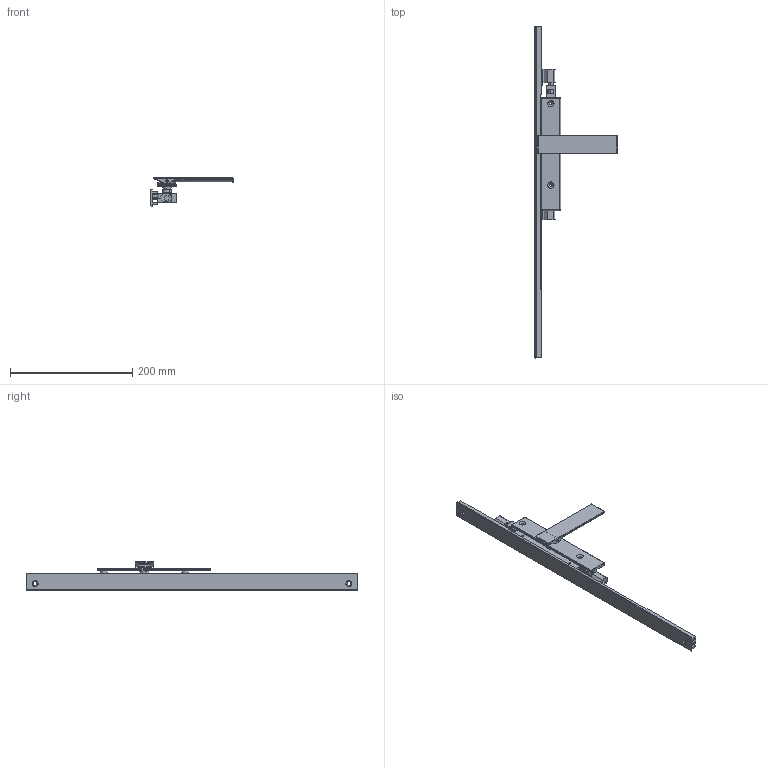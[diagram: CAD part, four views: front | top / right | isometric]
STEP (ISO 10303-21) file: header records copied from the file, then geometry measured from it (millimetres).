
FILE_DESCRIPTION (( 'STEP AP214' ), '1' );
FILE_NAME ('TPL-W-502-U 19July2024.STEP', '2024-12-04T23:54:51', ( '' ), ( '' ), 'SwSTEP 2.0', 'SolidWorks 2023', '' );
FILE_SCHEMA (( 'AUTOMOTIVE_DESIGN' ));
Length unit declared in the file: millimetre
Products named in the file (16): TPL-W-502-U 19July2024; Copy of Escutcheon plate unkeyed 185mm - simplified^Copy of TPGen2 handle non-keyed - simplified_TPL-W-002 19July2024; Copy (2) of COV-112-B Cover B suit TPLGen2 standard range^TPL-W-002 19July2024_2870mm; Copy of Adapter CnE - simplfied^TPL-W-002 19July2024_26mm backset; Copy of COV-112-A Cover A suit TPLGen2 standard range^TPL-W-002 19July2024_1335mm; Copy of TPGen2 handle non-keyed - simplified^TPL-W-002 19July2024_Right; Copy of Copy of Copy of LKC-531 Lock twinpoint transmission rod wood system^TPL-W-002 19July2024_Standard Range 2891.7mm; Bolt(2)^TPL-W-002 19July2024; Copy of TPLGen2 lock body non-keyed^Copy of TPLGen2 lock body non-keyed assembly_TPL-W-002 19July2024; Copy of TPLGen2 lock body non-keyed assembly^TPL-W-002 19July2024_Bolts retracted; Copy of COV-112-C Cover C TPLGen2 Lock body^TPL-W-002 19July2024; Copy of LKC-547 Spindle - simplified^Copy of TPGen2 handle non-keyed - simplified_TPL-W-002 19July2024_C - 15mm; Copy of Copy of LKC-531 Lock twinpoint transmission rod wood system^TPL-W-002 19July2024_Standard Range 2891.7mm; Copy of Handle sub-assembly - simplified^Copy of TPGen2 handle non-keyed - simplified_TPL-W-002 19July2024; Copy of Adapter DnF - simplfied^TPL-W-002 19July2024_26mm backset; Copy of TPLGen2 push rod - simplified^Copy of TPLGen2 lock body non-keyed assembly_TPL-W-002 19July2024_Female thread M10
Assembly tree (13 placements, depth 3):
  TPL-W-502-U 19July2024
    Copy of TPLGen2 lock body non-keyed assembly^TPL-W-002 19July2024_Bolts retracted
      Copy of TPLGen2 lock body non-keyed^Copy of TPLGen2 lock body non-keyed assembly_TPL-W-002 19July2024
      Copy of TPLGen2 push rod - simplified^Copy of TPLGen2 lock body non-keyed assembly_TPL-W-002 19July2024_Female thread M10  x2
    Copy of TPGen2 handle non-keyed - simplified^TPL-W-002 19July2024_Right
      Copy of Escutcheon plate unkeyed 185mm - simplified^Copy of TPGen2 handle non-keyed - simplified_TPL-W-002 19July2024
      Copy of Handle sub-assembly - simplified^Copy of TPGen2 handle non-keyed - simplified_TPL-W-002 19July2024
      Copy of LKC-547 Spindle - simplified^Copy of TPGen2 handle non-keyed - simplified_TPL-W-002 19July2024_C - 15mm
    Copy of COV-112-C Cover C TPLGen2 Lock body^TPL-W-002 19July2024
    Copy of Copy of LKC-531 Lock twinpoint transmission rod wood system^TPL-W-002 19July2024_Standard Range 2891.7mm
    Copy of Copy of Copy of LKC-531 Lock twinpoint transmission rod wood system^TPL-W-002 19July2024_Standard Range 2891.7mm
    Copy of Adapter DnF - simplfied^TPL-W-002 19July2024_26mm backset
    Copy of Adapter CnE - simplfied^TPL-W-002 19July2024_26mm backset
  Copy (2) of COV-112-B Cover B suit TPLGen2 standard range^TPL-W-002 19July2024_2870mm
  Copy of COV-112-A Cover A suit TPLGen2 standard range^TPL-W-002 19July2024_1335mm
  Bolt(2)^TPL-W-002 19July2024
Bounding box: 134.5 x 544 x 45.97 mm (x, y, z)
Volume: 209807.6 mm3; surface area: 119476.3 mm2
Topology: 12 solids, 12 shells, 637 faces, 1619 edges, 1023 vertices
Faces by surface type: plane 297, cylinder 199, bspline 77, torus 32, cone 20, sphere 12
Entity records: 19175 total; most frequent: CARTESIAN_POINT 4453, ORIENTED_EDGE 3022, DIRECTION 2875, EDGE_CURVE 1511, AXIS2_PLACEMENT_3D 993, VERTEX_POINT 963, VECTOR 889, LINE 889
